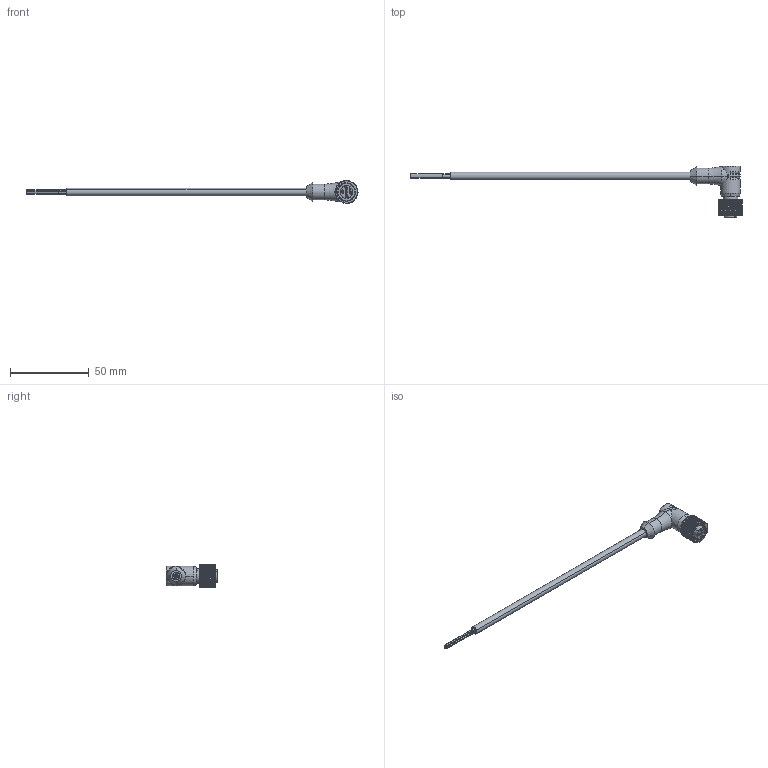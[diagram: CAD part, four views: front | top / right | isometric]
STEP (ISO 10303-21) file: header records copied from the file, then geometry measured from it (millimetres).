
FILE_DESCRIPTION (( 'STEP AP214' ), '1' );
FILE_NAME ('MDCWF-4FP-ZZ-R.STEP', '2020-11-18T13:58:23', ( '' ), ( '' ), 'SwSTEP 2.0', 'SolidWorks 2018', '' );
FILE_SCHEMA (( 'AUTOMOTIVE_DESIGN' ));
Length unit declared in the file: millimetre
Products named in the file (1): MDCWF-4FP-ZZ-R
Bounding box: 211.21 x 32.79 x 14.62 mm (x, y, z)
Volume: 8466 mm3; surface area: 6228.9 mm2
Topology: 4 solids, 4 shells, 530 faces, 1480 edges, 982 vertices
Faces by surface type: cylinder 313, plane 174, bspline 23, torus 12, cone 8
Entity records: 26339 total; most frequent: CARTESIAN_POINT 7344, ORIENTED_EDGE 2960, DIRECTION 2610, EDGE_CURVE 1480, AXIS2_PLACEMENT_3D 990, VERTEX_POINT 982, LINE 630, VECTOR 630
